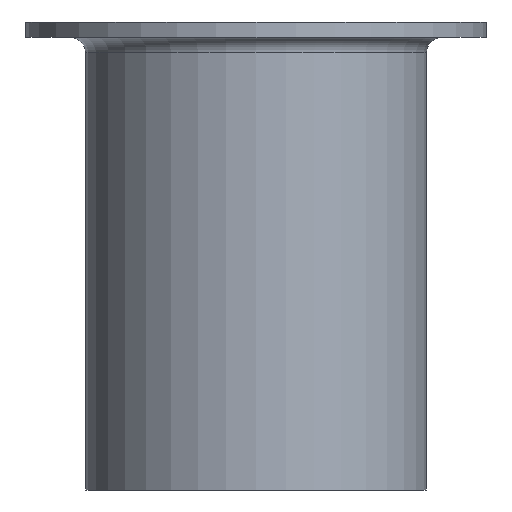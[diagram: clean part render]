
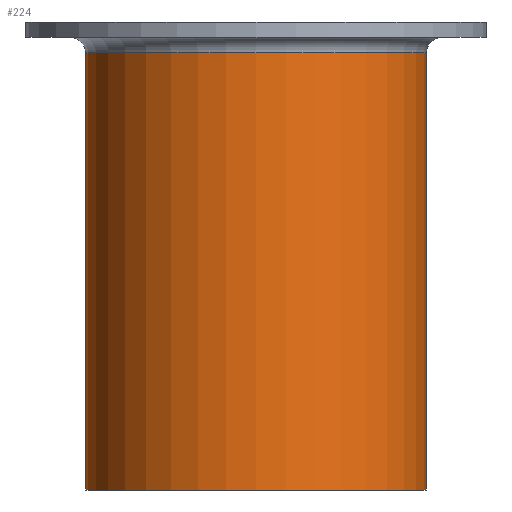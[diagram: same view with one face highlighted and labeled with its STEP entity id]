
A CAD part, front view. The second image highlights one B-rep face of the part: STEP entity #224.
In plain terms, the highlighted cylindrical face has radius 17.335 mm (diameter 34.67 mm), a full revolution.
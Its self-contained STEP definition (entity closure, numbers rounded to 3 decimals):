
#5 = CIRCLE ( 'NONE', #136, 17.335 ) ;
#31 = CARTESIAN_POINT ( 'NONE',  ( 0., 0., -3.14 ) ) ;
#42 = AXIS2_PLACEMENT_3D ( 'NONE', #31, #238, #183 ) ;
#48 = DIRECTION ( 'NONE',  ( 0., 0., 1. ) ) ;
#56 = EDGE_CURVE ( 'NONE', #226, #226, #5, .T. ) ;
#57 = ORIENTED_EDGE ( 'NONE', *, *, #56, .T. ) ;
#64 = EDGE_LOOP ( 'NONE', ( #57 ) ) ;
#71 = AXIS2_PLACEMENT_3D ( 'NONE', #148, #48, #167 ) ;
#73 = FACE_OUTER_BOUND ( 'NONE', #64, .T. ) ;
#83 = CARTESIAN_POINT ( 'NONE',  ( 17.335, 0., -47.6 ) ) ;
#136 = AXIS2_PLACEMENT_3D ( 'NONE', #163, #200, #223 ) ;
#137 = EDGE_LOOP ( 'NONE', ( #247 ) ) ;
#148 = CARTESIAN_POINT ( 'NONE',  ( 0., 0., 7.657 ) ) ;
#150 = CYLINDRICAL_SURFACE ( 'NONE', #71, 17.335 ) ;
#163 = CARTESIAN_POINT ( 'NONE',  ( 0., 0., -47.6 ) ) ;
#167 = DIRECTION ( 'NONE',  ( 1., 0., 0. ) ) ;
#170 = FACE_OUTER_BOUND ( 'NONE', #137, .T. ) ;
#175 = EDGE_CURVE ( 'NONE', #182, #182, #222, .T. ) ;
#182 = VERTEX_POINT ( 'NONE', #240 ) ;
#183 = DIRECTION ( 'NONE',  ( 1., 0., 0. ) ) ;
#200 = DIRECTION ( 'NONE',  ( 0., 0., 1. ) ) ;
#222 = CIRCLE ( 'NONE', #42, 17.335 ) ;
#223 = DIRECTION ( 'NONE',  ( 1., 0., 0. ) ) ;
#224 = ADVANCED_FACE ( 'NONE', ( #170, #73 ), #150, .T. ) ;
#226 = VERTEX_POINT ( 'NONE', #83 ) ;
#238 = DIRECTION ( 'NONE',  ( 0., 0., -1. ) ) ;
#240 = CARTESIAN_POINT ( 'NONE',  ( 17.335, 0., -3.14 ) ) ;
#247 = ORIENTED_EDGE ( 'NONE', *, *, #175, .T. ) ;
